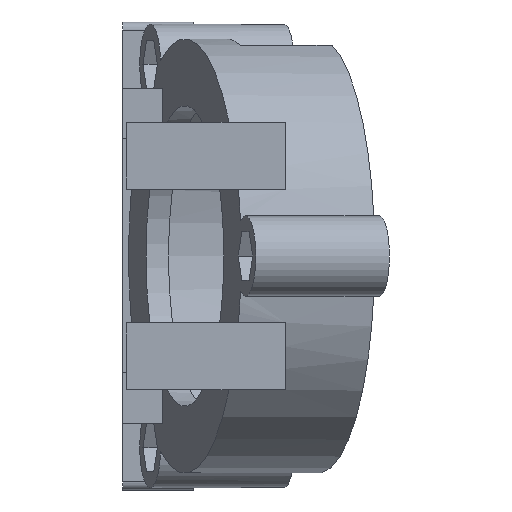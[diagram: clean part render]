
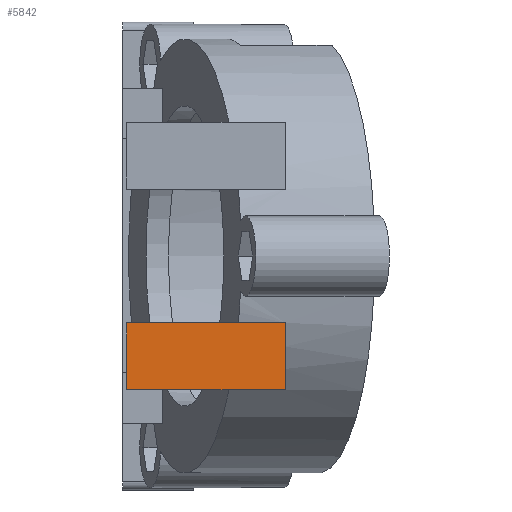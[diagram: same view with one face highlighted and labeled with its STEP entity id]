
A CAD part, left-side view. The second image highlights one B-rep face of the part: STEP entity #5842.
In plain terms, the highlighted planar face has unit normal (-1, 0, 0).
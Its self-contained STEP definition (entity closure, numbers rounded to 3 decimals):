
#5481 = B_SPLINE_SURFACE_WITH_KNOTS('',1,1,(
    (#5482,#5483)
    ,(#5484,#5485
    )),.UNSPECIFIED.,.F.,.F.,.F.,(2,2),(2,2),(0.,12.),(0.,1.),
  .PIECEWISE_BEZIER_KNOTS.);
#5482 = CARTESIAN_POINT('',(2.682,31.431,12.));
#5483 = CARTESIAN_POINT('',(2.682,12.475,12.));
#5484 = CARTESIAN_POINT('',(10.682,31.431,12.));
#5485 = CARTESIAN_POINT('',(14.682,12.475,12.));
#5525 = PLANE('',#5526);
#5526 = AXIS2_PLACEMENT_3D('',#5527,#5528,#5529);
#5527 = CARTESIAN_POINT('',(2.682,12.475,12.));
#5528 = DIRECTION('',(0.,1.,0.));
#5529 = DIRECTION('',(0.832,0.,0.555)
  );
#5565 = B_SPLINE_SURFACE_WITH_KNOTS('',1,1,(
    (#5566,#5567)
    ,(#5568,#5569
    )),.UNSPECIFIED.,.F.,.F.,.F.,(2,2),(2,2),(0.,12.),(0.,1.),
  .PIECEWISE_BEZIER_KNOTS.);
#5566 = CARTESIAN_POINT('',(10.682,31.431,20.));
#5567 = CARTESIAN_POINT('',(14.682,12.475,20.));
#5568 = CARTESIAN_POINT('',(2.682,31.431,20.));
#5569 = CARTESIAN_POINT('',(2.682,12.475,20.));
#5587 = EDGE_CURVE('',#5588,#5590,#5592,.T.);
#5588 = VERTEX_POINT('',#5589);
#5589 = CARTESIAN_POINT('',(2.682,31.431,12.));
#5590 = VERTEX_POINT('',#5591);
#5591 = CARTESIAN_POINT('',(2.682,12.475,12.));
#5592 = SURFACE_CURVE('',#5593,(#5596,#5603),.PCURVE_S1.);
#5593 = B_SPLINE_CURVE_WITH_KNOTS('',1,(#5594,#5595),.UNSPECIFIED.,.F.,
  .F.,(2,2),(0.,1.),.PIECEWISE_BEZIER_KNOTS.);
#5594 = CARTESIAN_POINT('',(2.682,31.431,12.));
#5595 = CARTESIAN_POINT('',(2.682,12.475,12.));
#5596 = PCURVE('',#5481,#5597);
#5597 = DEFINITIONAL_REPRESENTATION('',(#5598),#5602);
#5598 = LINE('',#5599,#5600);
#5599 = CARTESIAN_POINT('',(0.,0.));
#5600 = VECTOR('',#5601,1.);
#5601 = DIRECTION('',(0.,1.));
#5602 = ( GEOMETRIC_REPRESENTATION_CONTEXT(2) 
PARAMETRIC_REPRESENTATION_CONTEXT() REPRESENTATION_CONTEXT('2D SPACE',''
  ) );
#5603 = PCURVE('',#5604,#5609);
#5604 = PLANE('',#5605);
#5605 = AXIS2_PLACEMENT_3D('',#5606,#5607,#5608);
#5606 = CARTESIAN_POINT('',(2.682,12.475,20.));
#5607 = DIRECTION('',(-1.,0.,0.));
#5608 = DIRECTION('',(0.,0.,-1.));
#5609 = DEFINITIONAL_REPRESENTATION('',(#5610),#5613);
#5610 = B_SPLINE_CURVE_WITH_KNOTS('',1,(#5611,#5612),.UNSPECIFIED.,.F.,
  .F.,(2,2),(0.,1.),.PIECEWISE_BEZIER_KNOTS.);
#5611 = CARTESIAN_POINT('',(8.,-18.955));
#5612 = CARTESIAN_POINT('',(8.,0.));
#5613 = ( GEOMETRIC_REPRESENTATION_CONTEXT(2) 
PARAMETRIC_REPRESENTATION_CONTEXT() REPRESENTATION_CONTEXT('2D SPACE',''
  ) );
#5630 = PLANE('',#5631);
#5631 = AXIS2_PLACEMENT_3D('',#5632,#5633,#5634);
#5632 = CARTESIAN_POINT('',(2.682,31.431,12.));
#5633 = DIRECTION('',(0.,1.,0.));
#5634 = DIRECTION('',(0.707,0.,0.707)
  );
#5754 = VERTEX_POINT('',#5755);
#5755 = CARTESIAN_POINT('',(2.682,31.431,20.));
#5775 = EDGE_CURVE('',#5754,#5588,#5776,.T.);
#5776 = SURFACE_CURVE('',#5777,(#5781,#5788),.PCURVE_S1.);
#5777 = LINE('',#5778,#5779);
#5778 = CARTESIAN_POINT('',(2.682,31.431,20.));
#5779 = VECTOR('',#5780,1.);
#5780 = DIRECTION('',(0.,0.,-1.));
#5781 = PCURVE('',#5630,#5782);
#5782 = DEFINITIONAL_REPRESENTATION('',(#5783),#5787);
#5783 = LINE('',#5784,#5785);
#5784 = CARTESIAN_POINT('',(5.657,-5.657));
#5785 = VECTOR('',#5786,1.);
#5786 = DIRECTION('',(-0.707,0.707));
#5787 = ( GEOMETRIC_REPRESENTATION_CONTEXT(2) 
PARAMETRIC_REPRESENTATION_CONTEXT() REPRESENTATION_CONTEXT('2D SPACE',''
  ) );
#5788 = PCURVE('',#5604,#5789);
#5789 = DEFINITIONAL_REPRESENTATION('',(#5790),#5794);
#5790 = LINE('',#5791,#5792);
#5791 = CARTESIAN_POINT('',(0.,-18.955));
#5792 = VECTOR('',#5793,1.);
#5793 = DIRECTION('',(1.,0.));
#5794 = ( GEOMETRIC_REPRESENTATION_CONTEXT(2) 
PARAMETRIC_REPRESENTATION_CONTEXT() REPRESENTATION_CONTEXT('2D SPACE',''
  ) );
#5842 = ADVANCED_FACE('',(#5843),#5604,.T.);
#5843 = FACE_BOUND('',#5844,.T.);
#5844 = EDGE_LOOP('',(#5845,#5846,#5847,#5870));
#5845 = ORIENTED_EDGE('',*,*,#5775,.T.);
#5846 = ORIENTED_EDGE('',*,*,#5587,.T.);
#5847 = ORIENTED_EDGE('',*,*,#5848,.F.);
#5848 = EDGE_CURVE('',#5849,#5590,#5851,.T.);
#5849 = VERTEX_POINT('',#5850);
#5850 = CARTESIAN_POINT('',(2.682,12.475,20.));
#5851 = SURFACE_CURVE('',#5852,(#5856,#5863),.PCURVE_S1.);
#5852 = LINE('',#5853,#5854);
#5853 = CARTESIAN_POINT('',(2.682,12.475,20.));
#5854 = VECTOR('',#5855,1.);
#5855 = DIRECTION('',(0.,0.,-1.));
#5856 = PCURVE('',#5604,#5857);
#5857 = DEFINITIONAL_REPRESENTATION('',(#5858),#5862);
#5858 = LINE('',#5859,#5860);
#5859 = CARTESIAN_POINT('',(0.,0.));
#5860 = VECTOR('',#5861,1.);
#5861 = DIRECTION('',(1.,0.));
#5862 = ( GEOMETRIC_REPRESENTATION_CONTEXT(2) 
PARAMETRIC_REPRESENTATION_CONTEXT() REPRESENTATION_CONTEXT('2D SPACE',''
  ) );
#5863 = PCURVE('',#5525,#5864);
#5864 = DEFINITIONAL_REPRESENTATION('',(#5865),#5869);
#5865 = LINE('',#5866,#5867);
#5866 = CARTESIAN_POINT('',(4.438,-6.656));
#5867 = VECTOR('',#5868,1.);
#5868 = DIRECTION('',(-0.555,0.832));
#5869 = ( GEOMETRIC_REPRESENTATION_CONTEXT(2) 
PARAMETRIC_REPRESENTATION_CONTEXT() REPRESENTATION_CONTEXT('2D SPACE',''
  ) );
#5870 = ORIENTED_EDGE('',*,*,#5871,.F.);
#5871 = EDGE_CURVE('',#5754,#5849,#5872,.T.);
#5872 = SURFACE_CURVE('',#5873,(#5876,#5882),.PCURVE_S1.);
#5873 = B_SPLINE_CURVE_WITH_KNOTS('',1,(#5874,#5875),.UNSPECIFIED.,.F.,
  .F.,(2,2),(0.,1.),.PIECEWISE_BEZIER_KNOTS.);
#5874 = CARTESIAN_POINT('',(2.682,31.431,20.));
#5875 = CARTESIAN_POINT('',(2.682,12.475,20.));
#5876 = PCURVE('',#5604,#5877);
#5877 = DEFINITIONAL_REPRESENTATION('',(#5878),#5881);
#5878 = B_SPLINE_CURVE_WITH_KNOTS('',1,(#5879,#5880),.UNSPECIFIED.,.F.,
  .F.,(2,2),(0.,1.),.PIECEWISE_BEZIER_KNOTS.);
#5879 = CARTESIAN_POINT('',(0.,-18.955));
#5880 = CARTESIAN_POINT('',(0.,0.));
#5881 = ( GEOMETRIC_REPRESENTATION_CONTEXT(2) 
PARAMETRIC_REPRESENTATION_CONTEXT() REPRESENTATION_CONTEXT('2D SPACE',''
  ) );
#5882 = PCURVE('',#5565,#5883);
#5883 = DEFINITIONAL_REPRESENTATION('',(#5884),#5888);
#5884 = LINE('',#5885,#5886);
#5885 = CARTESIAN_POINT('',(12.,0.));
#5886 = VECTOR('',#5887,1.);
#5887 = DIRECTION('',(0.,1.));
#5888 = ( GEOMETRIC_REPRESENTATION_CONTEXT(2) 
PARAMETRIC_REPRESENTATION_CONTEXT() REPRESENTATION_CONTEXT('2D SPACE',''
  ) );
